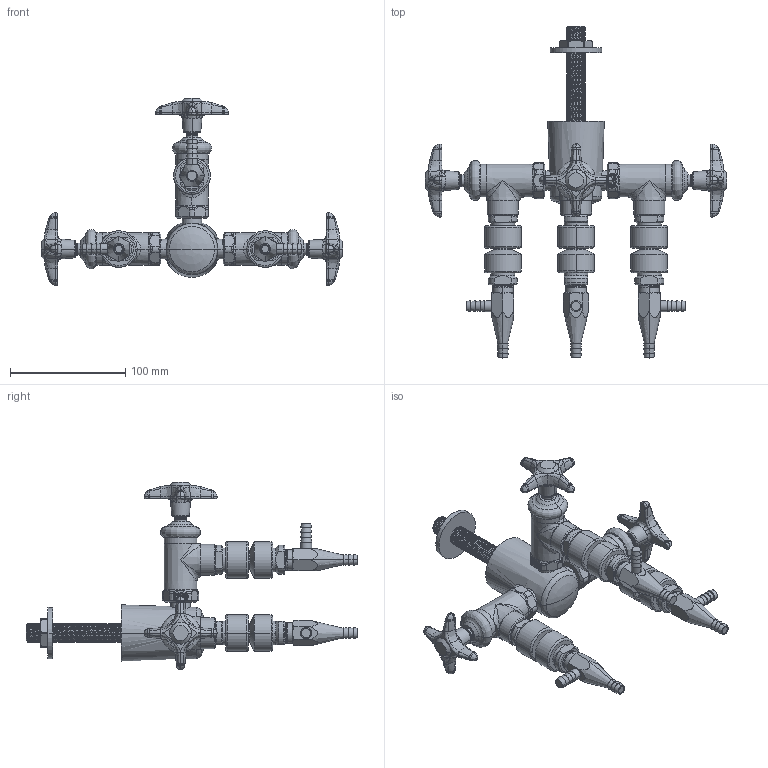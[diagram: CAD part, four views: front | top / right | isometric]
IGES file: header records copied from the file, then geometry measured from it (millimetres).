
Start section:  PTC IGES file: LWV2-C64-30.igs
Global section: file name: LWV2-C64-30.igs; native system: Creo Parametric by PTC Inc.; preprocessor: 2014500; author: usch_engrender; organization: Unknown; date: 20151124.122351; units: inch
Bounding box: 261.52 x 288.04 x 162.47 mm (x, y, z)
Volume: 456610.3 mm3; surface area: 122710.2 mm2
Topology: 1 solids, 8 shells, 2065 faces, 4869 edges, 2907 vertices
Faces by surface type: bspline 1068, revolution 997
